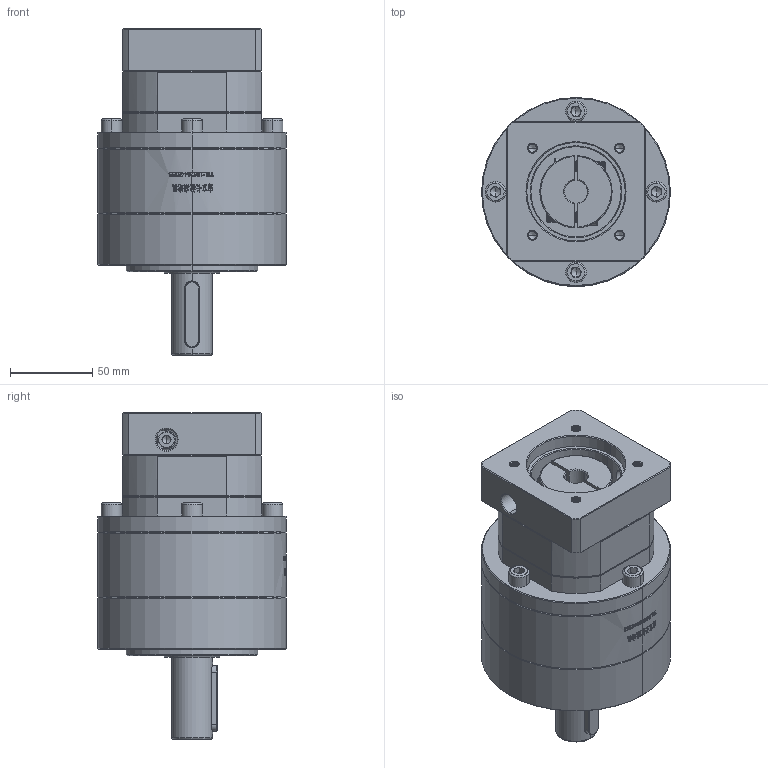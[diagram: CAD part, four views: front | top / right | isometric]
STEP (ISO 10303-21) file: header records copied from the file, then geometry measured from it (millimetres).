
FILE_DESCRIPTION (( 'STEP AP214' ), '1' );
FILE_NAME ('ZE120A-D25-L2-14-60-75-M6.step', '2023-03-13T06:48:49', ( '' ), ( '' ), 'SwSTEP 2.0', 'SolidWorks 2016', '' );
FILE_SCHEMA (( 'AUTOMOTIVE_DESIGN' ));
Length unit declared in the file: millimetre
Products named in the file (1): ZE120A-D25-L2-14-60-75-M6
Bounding box: 115 x 115 x 199 mm (x, y, z)
Volume: 1227633.4 mm3; surface area: 121606.3 mm2
Topology: 5 solids, 6 shells, 2029 faces, 5337 edges, 3399 vertices
Faces by surface type: plane 862, cylinder 504, bspline 333, cone 315, torus 15
Entity records: 116722 total; most frequent: CARTESIAN_POINT 48986, ORIENTED_EDGE 10598, DIRECTION 7940, EDGE_CURVE 5299, VERTEX_POINT 3399, VECTOR 2802, LINE 2802, AXIS2_PLACEMENT_3D 2569
